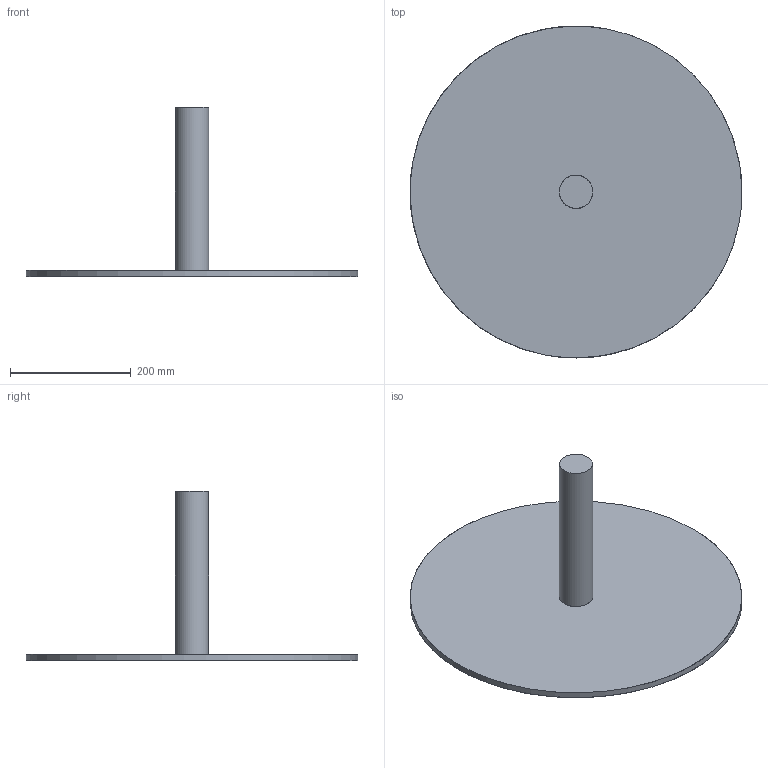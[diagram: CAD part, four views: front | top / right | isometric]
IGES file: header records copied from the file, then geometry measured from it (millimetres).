
Global section: file name: M:\BASI e PIEDI\Render + info basi + MODIFICHE\D9\D9 PER RENDERING.igs; native system: Rhinoceros ( Aug 10 2015 ); preprocessor: Trout Lake IGES 012 Aug 10 2015; date: 160118.083247; units: millimetre
Bounding box: 550 x 550 x 280 mm (x, y, z)
Surface area: 543960.9 mm2 (no closed solid volume)
Topology: 0 solids, 0 shells, 6 faces, 22 edges, 20 vertices
Faces by surface type: bspline 6
